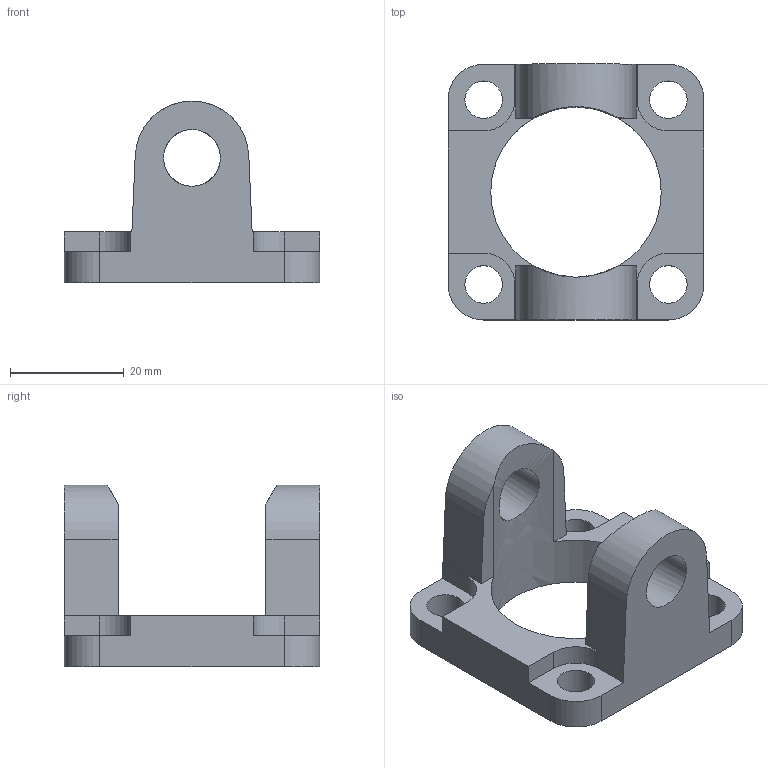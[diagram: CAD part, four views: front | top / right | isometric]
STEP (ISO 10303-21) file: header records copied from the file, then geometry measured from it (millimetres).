
FILE_DESCRIPTION((''),'2;1');
FILE_NAME('I:\Area Tecnica\Documenti\A-Mauro\_Inventor\LIBRERIE\FISSAGGI EUROPE\1500_Ø_08F\1500.32.08F.stp','2007-02-26T14:16:53',('valotma1'),(''),'Autodesk Inventor 11','Autodesk Inventor 11','');
FILE_SCHEMA(('AUTOMOTIVE_DESIGN { 1 0 10303 214 1 1 1 1 }'));
Length unit declared in the file: millimetre
Products named in the file (1): 1500.32
Bounding box: 45 x 45 x 32 mm (x, y, z)
Volume: 15037 mm3; surface area: 7724.1 mm2
Topology: 1 solids, 1 shells, 44 faces, 130 edges, 87 vertices
Faces by surface type: plane 23, bspline 15, cylinder 6
Entity records: 1808 total; most frequent: CARTESIAN_POINT 648, ORIENTED_EDGE 242, DIRECTION 212, EDGE_CURVE 121, VERTEX_POINT 85, VECTOR 82, LINE 82, AXIS2_PLACEMENT_3D 65
